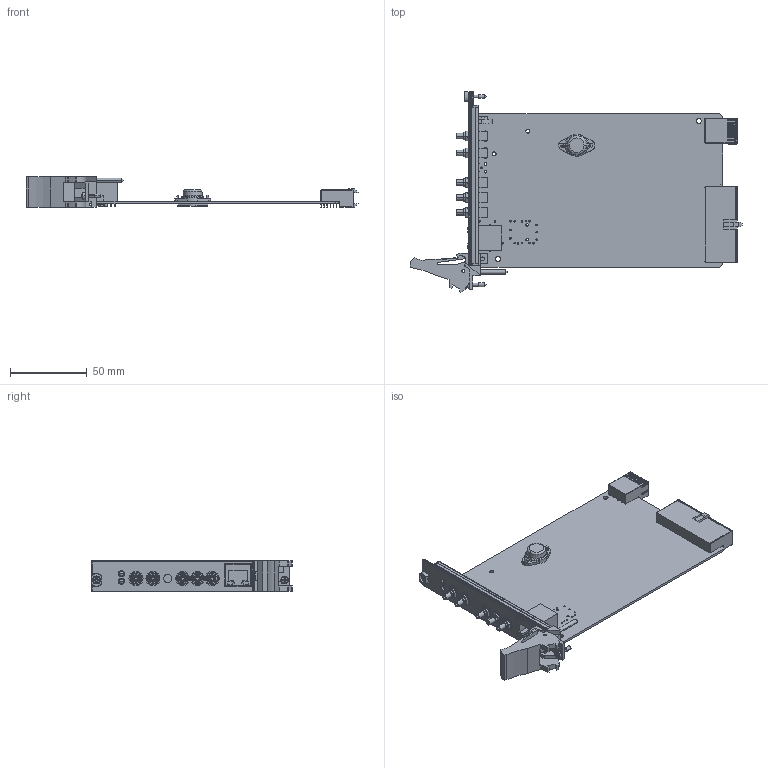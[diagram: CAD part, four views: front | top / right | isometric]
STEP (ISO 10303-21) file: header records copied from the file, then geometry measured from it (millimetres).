
FILE_DESCRIPTION((''),'2;1');
FILE_NAME('CU_CCA_PXI-6683H-SW','2014-01-14T',('gvillanu'),(''),'PRO/ENGINEER BY PARAMETRIC TECHNOLOGY CORPORATION, 2011490','PRO/ENGINEER BY PARAMETRIC TECHNOLOGY CORPORATION, 2011490','');
FILE_SCHEMA(('CONFIG_CONTROL_DESIGN'));
Length unit declared in the file: inch
Products named in the file (1): CU_CCA_PXI-6683H-SW
Bounding box: 216.08 x 130.5 x 20.49 mm (x, y, z)
Surface area: 61933 mm2 (no closed solid volume)
Topology: 0 solids, 116 shells, 1305 faces, 4671 edges, 3445 vertices
Faces by surface type: plane 929, cylinder 290, cone 46, torus 20, sphere 10, bspline 10
Entity records: 52578 total; most frequent: CARTESIAN_POINT 12170, DIRECTION 8528, ORIENTED_EDGE 7314, EDGE_CURVE 4655, VERTEX_POINT 3445, VECTOR 3094, LINE 3094, AXIS2_PLACEMENT_3D 2717
